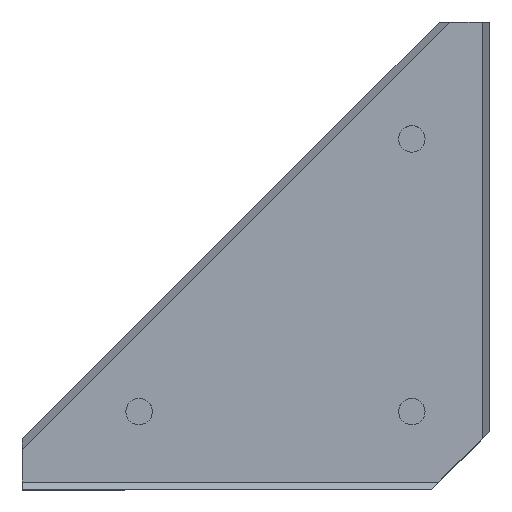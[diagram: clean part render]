
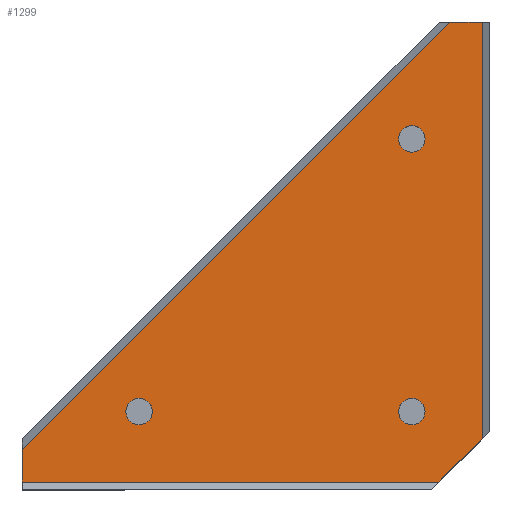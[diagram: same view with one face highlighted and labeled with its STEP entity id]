
A CAD part, top view. The second image highlights one B-rep face of the part: STEP entity #1299.
In plain terms, the highlighted planar face has unit normal (0, 0, 1).
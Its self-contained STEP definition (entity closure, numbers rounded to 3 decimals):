
#16 = VERTEX_POINT ( 'NONE', #157 ) ;
#35 = EDGE_LOOP ( 'NONE', ( #1356, #1266, #1209, #1118, #1056, #190 ) ) ;
#36 = EDGE_CURVE ( 'NONE', #16, #725, #242, .T. ) ;
#50 = EDGE_CURVE ( 'NONE', #1222, #579, #285, .T. ) ;
#54 = ORIENTED_EDGE ( 'NONE', *, *, #170, .F. ) ;
#63 = ORIENTED_EDGE ( 'NONE', *, *, #1350, .F. ) ;
#100 = CARTESIAN_POINT ( 'NONE',  ( 106.9, 1.9, 16. ) ) ;
#125 = CARTESIAN_POINT ( 'NONE',  ( 0., 10.313, 16. ) ) ;
#157 = CARTESIAN_POINT ( 'NONE',  ( 118.1, 120., 16. ) ) ;
#170 = EDGE_CURVE ( 'NONE', #1326, #831, #448, .T. ) ;
#172 = LINE ( 'NONE', #173, #174 ) ;
#173 = CARTESIAN_POINT ( 'NONE',  ( 105., 0., 16. ) ) ;
#174 = VECTOR ( 'NONE', #175, 1000. ) ;
#175 = DIRECTION ( 'NONE',  ( 0.707, 0.707, 0. ) ) ;
#190 = ORIENTED_EDGE ( 'NONE', *, *, #36, .T. ) ;
#228 = CIRCLE ( 'NONE', #229, 3.4 ) ;
#229 = AXIS2_PLACEMENT_3D ( 'NONE', #230, #231, #232 ) ;
#230 = CARTESIAN_POINT ( 'NONE',  ( 100., 90., 16. ) ) ;
#231 = DIRECTION ( 'NONE',  ( 0., 0., 1. ) ) ;
#232 = DIRECTION ( 'NONE',  ( 1., 0., 0. ) ) ;
#242 = LINE ( 'NONE', #243, #244 ) ;
#243 = CARTESIAN_POINT ( 'NONE',  ( 120., 120., 16. ) ) ;
#244 = VECTOR ( 'NONE', #245, 1000. ) ;
#245 = DIRECTION ( 'NONE',  ( -1., 0., 0. ) ) ;
#285 = CIRCLE ( 'NONE', #286, 3.4 ) ;
#286 = AXIS2_PLACEMENT_3D ( 'NONE', #287, #288, #289 ) ;
#287 = CARTESIAN_POINT ( 'NONE',  ( 100., 90., 16. ) ) ;
#288 = DIRECTION ( 'NONE',  ( 0., 0., 1. ) ) ;
#289 = DIRECTION ( 'NONE',  ( 1., 0., 0. ) ) ;
#303 = LINE ( 'NONE', #304, #305 ) ;
#304 = CARTESIAN_POINT ( 'NONE',  ( 0., 1.9, 16. ) ) ;
#305 = VECTOR ( 'NONE', #306, 1000. ) ;
#306 = DIRECTION ( 'NONE',  ( 1., 0., 0. ) ) ;
#409 = LINE ( 'NONE', #410, #411 ) ;
#410 = CARTESIAN_POINT ( 'NONE',  ( -5.156, 5.156, 16. ) ) ;
#411 = VECTOR ( 'NONE', #412, 1000. ) ;
#412 = DIRECTION ( 'NONE',  ( 0.707, 0.707, 0. ) ) ;
#448 = CIRCLE ( 'NONE', #449, 3.4 ) ;
#449 = AXIS2_PLACEMENT_3D ( 'NONE', #450, #451, #452 ) ;
#450 = CARTESIAN_POINT ( 'NONE',  ( 100., 20., 16. ) ) ;
#451 = DIRECTION ( 'NONE',  ( 0., 0., 1. ) ) ;
#452 = DIRECTION ( 'NONE',  ( 1., 0., 0. ) ) ;
#482 = CARTESIAN_POINT ( 'NONE',  ( 103.4, 20., 16. ) ) ;
#556 = CARTESIAN_POINT ( 'NONE',  ( 0., 1.9, 16. ) ) ;
#559 = EDGE_CURVE ( 'NONE', #1233, #581, #687, .T. ) ;
#579 = VERTEX_POINT ( 'NONE', #709 ) ;
#581 = VERTEX_POINT ( 'NONE', #711 ) ;
#587 = CARTESIAN_POINT ( 'NONE',  ( 96.6, 90., 16. ) ) ;
#617 = EDGE_CURVE ( 'NONE', #1132, #1093, #741, .T. ) ;
#620 = CIRCLE ( 'NONE', #621, 3.4 ) ;
#621 = AXIS2_PLACEMENT_3D ( 'NONE', #622, #623, #624 ) ;
#622 = CARTESIAN_POINT ( 'NONE',  ( 100., 20., 16. ) ) ;
#623 = DIRECTION ( 'NONE',  ( 0., 0., 1. ) ) ;
#624 = DIRECTION ( 'NONE',  ( 1., 0., 0. ) ) ;
#626 = CARTESIAN_POINT ( 'NONE',  ( 33.4, 20., 16. ) ) ;
#665 = CARTESIAN_POINT ( 'NONE',  ( 118.1, 13.1, 16. ) ) ;
#687 = CIRCLE ( 'NONE', #691, 3.4 ) ;
#691 = AXIS2_PLACEMENT_3D ( 'NONE', #692, #693, #694 ) ;
#692 = CARTESIAN_POINT ( 'NONE',  ( 30., 20., 16. ) ) ;
#693 = DIRECTION ( 'NONE',  ( 0., 0., 1. ) ) ;
#694 = DIRECTION ( 'NONE',  ( 1., 0., 0. ) ) ;
#709 = CARTESIAN_POINT ( 'NONE',  ( 103.4, 90., 16. ) ) ;
#711 = CARTESIAN_POINT ( 'NONE',  ( 26.6, 20., 16. ) ) ;
#725 = VERTEX_POINT ( 'NONE', #793 ) ;
#726 = EDGE_CURVE ( 'NONE', #1240, #16, #798, .T. ) ;
#741 = LINE ( 'NONE', #742, #745 ) ;
#742 = CARTESIAN_POINT ( 'NONE',  ( 0., 13., 16. ) ) ;
#745 = VECTOR ( 'NONE', #746, 1000. ) ;
#746 = DIRECTION ( 'NONE',  ( 0., -1., 0. ) ) ;
#759 = CIRCLE ( 'NONE', #760, 3.4 ) ;
#760 = AXIS2_PLACEMENT_3D ( 'NONE', #763, #764, #765 ) ;
#763 = CARTESIAN_POINT ( 'NONE',  ( 30., 20., 16. ) ) ;
#764 = DIRECTION ( 'NONE',  ( 0., 0., 1. ) ) ;
#765 = DIRECTION ( 'NONE',  ( 1., 0., 0. ) ) ;
#793 = CARTESIAN_POINT ( 'NONE',  ( 109.687, 120., 16. ) ) ;
#798 = LINE ( 'NONE', #799, #800 ) ;
#799 = CARTESIAN_POINT ( 'NONE',  ( 118.1, 11.402, 16. ) ) ;
#800 = VECTOR ( 'NONE', #801, 1000. ) ;
#801 = DIRECTION ( 'NONE',  ( 0., 1., 0. ) ) ;
#831 = VERTEX_POINT ( 'NONE', #853 ) ;
#853 = CARTESIAN_POINT ( 'NONE',  ( 96.6, 20., 16. ) ) ;
#902 = ORIENTED_EDGE ( 'NONE', *, *, #559, .F. ) ;
#908 = FACE_BOUND ( 'NONE', #1275, .T. ) ;
#909 = FACE_BOUND ( 'NONE', #1086, .T. ) ;
#910 = FACE_BOUND ( 'NONE', #1304, .T. ) ;
#911 = FACE_OUTER_BOUND ( 'NONE', #35, .T. ) ;
#912 = PLANE ( 'NONE',  #913 ) ;
#913 = AXIS2_PLACEMENT_3D ( 'NONE', #914, #915, #916 ) ;
#914 = CARTESIAN_POINT ( 'NONE',  ( 0., 0., 16. ) ) ;
#915 = DIRECTION ( 'NONE',  ( 0., 0., 1. ) ) ;
#916 = DIRECTION ( 'NONE',  ( 1., 0., 0. ) ) ;
#1056 = ORIENTED_EDGE ( 'NONE', *, *, #726, .T. ) ;
#1086 = EDGE_LOOP ( 'NONE', ( #902, #1314 ) ) ;
#1093 = VERTEX_POINT ( 'NONE', #556 ) ;
#1108 = ORIENTED_EDGE ( 'NONE', *, *, #50, .F. ) ;
#1118 = ORIENTED_EDGE ( 'NONE', *, *, #1141, .T. ) ;
#1121 = VERTEX_POINT ( 'NONE', #100 ) ;
#1132 = VERTEX_POINT ( 'NONE', #125 ) ;
#1141 = EDGE_CURVE ( 'NONE', #1121, #1240, #172, .T. ) ;
#1157 = EDGE_CURVE ( 'NONE', #579, #1222, #228, .T. ) ;
#1174 = EDGE_CURVE ( 'NONE', #1093, #1121, #303, .T. ) ;
#1200 = ORIENTED_EDGE ( 'NONE', *, *, #1157, .F. ) ;
#1209 = ORIENTED_EDGE ( 'NONE', *, *, #1174, .T. ) ;
#1222 = VERTEX_POINT ( 'NONE', #587 ) ;
#1233 = VERTEX_POINT ( 'NONE', #626 ) ;
#1240 = VERTEX_POINT ( 'NONE', #665 ) ;
#1254 = EDGE_CURVE ( 'NONE', #581, #1233, #759, .T. ) ;
#1266 = ORIENTED_EDGE ( 'NONE', *, *, #617, .T. ) ;
#1275 = EDGE_LOOP ( 'NONE', ( #1200, #1108 ) ) ;
#1299 = ADVANCED_FACE ( 'NONE', ( #908, #909, #910, #911 ), #912, .T. ) ;
#1304 = EDGE_LOOP ( 'NONE', ( #54, #63 ) ) ;
#1314 = ORIENTED_EDGE ( 'NONE', *, *, #1254, .F. ) ;
#1319 = EDGE_CURVE ( 'NONE', #1132, #725, #409, .T. ) ;
#1326 = VERTEX_POINT ( 'NONE', #482 ) ;
#1350 = EDGE_CURVE ( 'NONE', #831, #1326, #620, .T. ) ;
#1356 = ORIENTED_EDGE ( 'NONE', *, *, #1319, .F. ) ;
